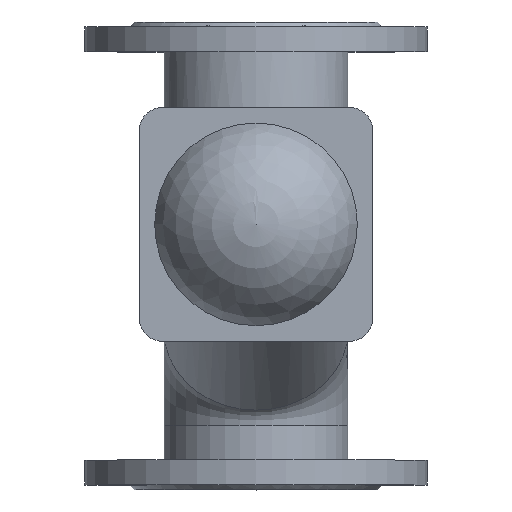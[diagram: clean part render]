
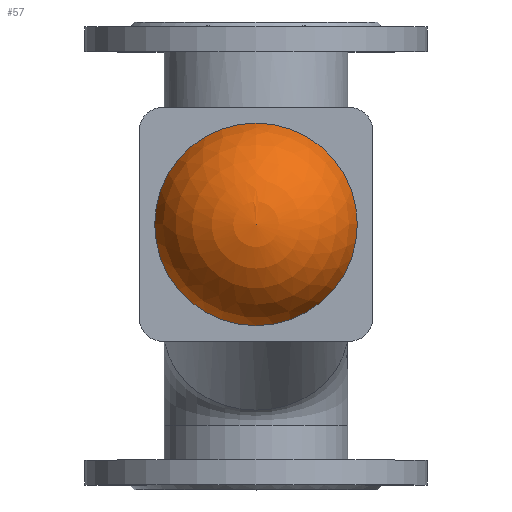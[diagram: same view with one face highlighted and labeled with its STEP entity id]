
A CAD part, top view. The second image highlights one B-rep face of the part: STEP entity #57.
In plain terms, the highlighted spherical face has radius 67.25 mm.
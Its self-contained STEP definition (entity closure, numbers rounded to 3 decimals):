
#57=ADVANCED_FACE('',(#777),#779,.T.);
#777=FACE_OUTER_BOUND('',#778,.T.);
#778=EDGE_LOOP('',(#1579));
#779=SPHERICAL_SURFACE('',#780,67.25);
#780=AXIS2_PLACEMENT_3D('',#781,#782,#783);
#781=CARTESIAN_POINT('',(0.,20.,144.75));
#782=DIRECTION('',(0.,0.,-1.));
#783=DIRECTION('',(0.,1.,0.));
#1579=ORIENTED_EDGE('',*,*,#1994,.T.);
#1994=EDGE_CURVE('',#2210,#2210,#2211,.F.);
#2210=VERTEX_POINT('',#2587);
#2211=CIRCLE('',#2588,65.);
#2587=CARTESIAN_POINT('',(0.,85.,162.));
#2588=AXIS2_PLACEMENT_3D('',#2589,#2590,#2591);
#2589=CARTESIAN_POINT('',(0.,20.,162.));
#2590=DIRECTION('',(0.,0.,-1.));
#2591=DIRECTION('',(0.,1.,0.));
